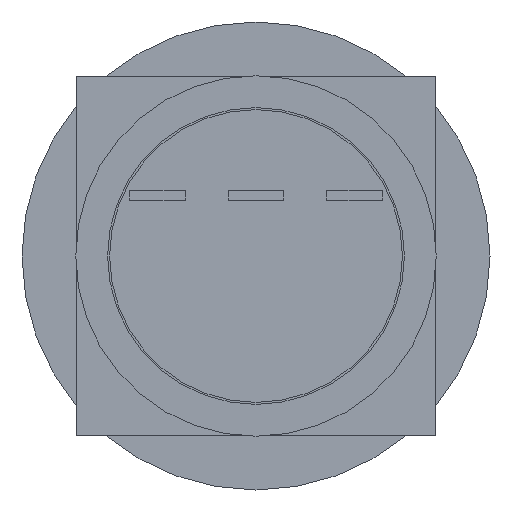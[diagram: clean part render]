
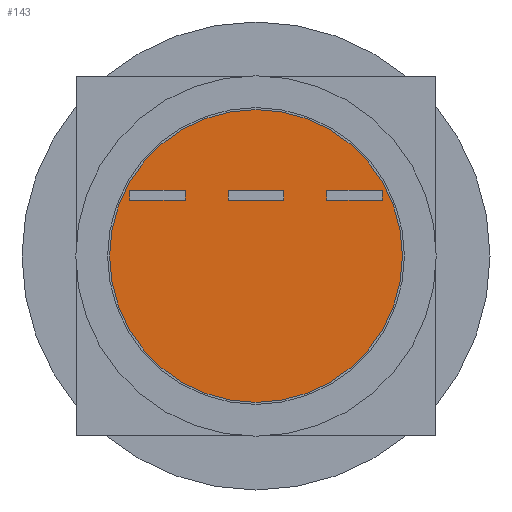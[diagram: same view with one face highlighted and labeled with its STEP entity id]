
A CAD part, front view. The second image highlights one B-rep face of the part: STEP entity #143.
In plain terms, the highlighted planar face has unit normal (0, -1, 0).
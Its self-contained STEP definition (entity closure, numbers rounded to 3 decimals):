
#1 = LINE ( 'NONE', #175, #138 ) ;
#5 = LINE ( 'NONE', #923, #484 ) ;
#7 = EDGE_CURVE ( 'NONE', #272, #536, #806, .T. ) ;
#11 = CARTESIAN_POINT ( 'NONE',  ( 3.55, -30., 3.3 ) ) ;
#18 = LINE ( 'NONE', #587, #823 ) ;
#23 = CARTESIAN_POINT ( 'NONE',  ( 0., -30., 0. ) ) ;
#27 = CARTESIAN_POINT ( 'NONE',  ( 6.35, -30., 3.3 ) ) ;
#34 = CARTESIAN_POINT ( 'NONE',  ( 1.4, -30., 3.3 ) ) ;
#36 = EDGE_LOOP ( 'NONE', ( #700, #1058, #450, #224 ) ) ;
#41 = EDGE_CURVE ( 'NONE', #584, #860, #902, .T. ) ;
#49 = AXIS2_PLACEMENT_3D ( 'NONE', #1030, #352, #1025 ) ;
#51 = DIRECTION ( 'NONE',  ( -1., 0., 0. ) ) ;
#60 = CARTESIAN_POINT ( 'NONE',  ( -6.35, -30., 3.3 ) ) ;
#67 = VERTEX_POINT ( 'NONE', #948 ) ;
#70 = FACE_BOUND ( 'NONE', #36, .T. ) ;
#73 = EDGE_CURVE ( 'NONE', #212, #1110, #784, .T. ) ;
#79 = EDGE_CURVE ( 'NONE', #170, #540, #18, .T. ) ;
#104 = EDGE_CURVE ( 'NONE', #860, #540, #5, .T. ) ;
#105 = FACE_BOUND ( 'NONE', #673, .T. ) ;
#107 = CARTESIAN_POINT ( 'NONE',  ( -1.4, -30., 2.8 ) ) ;
#130 = EDGE_LOOP ( 'NONE', ( #418, #641, #909, #659 ) ) ;
#138 = VECTOR ( 'NONE', #437, 1000. ) ;
#143 = ADVANCED_FACE ( 'NONE', ( #522, #70, #105, #662 ), #413, .T. ) ;
#144 = CARTESIAN_POINT ( 'NONE',  ( 3.55, -30., 3.3 ) ) ;
#150 = CARTESIAN_POINT ( 'NONE',  ( -7.35, -30., 0. ) ) ;
#160 = EDGE_CURVE ( 'NONE', #616, #67, #581, .T. ) ;
#167 = VERTEX_POINT ( 'NONE', #263 ) ;
#170 = VERTEX_POINT ( 'NONE', #541 ) ;
#175 = CARTESIAN_POINT ( 'NONE',  ( 6.35, -30., 3.3 ) ) ;
#179 = EDGE_CURVE ( 'NONE', #167, #1054, #228, .T. ) ;
#183 = DIRECTION ( 'NONE',  ( -1., 0., 0. ) ) ;
#212 = VERTEX_POINT ( 'NONE', #965 ) ;
#216 = CARTESIAN_POINT ( 'NONE',  ( -3.55, -30., 2.8 ) ) ;
#217 = ORIENTED_EDGE ( 'NONE', *, *, #73, .F. ) ;
#224 = ORIENTED_EDGE ( 'NONE', *, *, #775, .F. ) ;
#228 = CIRCLE ( 'NONE', #746, 7.35 ) ;
#246 = CARTESIAN_POINT ( 'NONE',  ( -1.4, -30., 3.3 ) ) ;
#254 = ORIENTED_EDGE ( 'NONE', *, *, #794, .F. ) ;
#259 = DIRECTION ( 'NONE',  ( 0., 0., -1. ) ) ;
#263 = CARTESIAN_POINT ( 'NONE',  ( 0., -30., -7.35 ) ) ;
#272 = VERTEX_POINT ( 'NONE', #216 ) ;
#278 = VECTOR ( 'NONE', #687, 1000. ) ;
#279 = VECTOR ( 'NONE', #1062, 1000. ) ;
#287 = EDGE_CURVE ( 'NONE', #1110, #536, #490, .T. ) ;
#312 = VECTOR ( 'NONE', #380, 1000. ) ;
#317 = VECTOR ( 'NONE', #684, 1000. ) ;
#332 = VECTOR ( 'NONE', #914, 1000. ) ;
#339 = CARTESIAN_POINT ( 'NONE',  ( -3.55, -30., 3.3 ) ) ;
#343 = DIRECTION ( 'NONE',  ( 0., 0., -1. ) ) ;
#348 = DIRECTION ( 'NONE',  ( -1., 0., 0. ) ) ;
#352 = DIRECTION ( 'NONE',  ( 0., 1., 0. ) ) ;
#359 = EDGE_LOOP ( 'NONE', ( #254, #951 ) ) ;
#380 = DIRECTION ( 'NONE',  ( -1., 0., 0. ) ) ;
#413 = PLANE ( 'NONE',  #764 ) ;
#418 = ORIENTED_EDGE ( 'NONE', *, *, #41, .F. ) ;
#429 = VECTOR ( 'NONE', #51, 1000. ) ;
#437 = DIRECTION ( 'NONE',  ( 0., 0., -1. ) ) ;
#450 = ORIENTED_EDGE ( 'NONE', *, *, #518, .T. ) ;
#469 = CARTESIAN_POINT ( 'NONE',  ( -1.4, -30., 3.3 ) ) ;
#478 = DIRECTION ( 'NONE',  ( 0., 1., 0. ) ) ;
#484 = VECTOR ( 'NONE', #343, 1000. ) ;
#490 = LINE ( 'NONE', #60, #332 ) ;
#510 = LINE ( 'NONE', #339, #976 ) ;
#517 = CARTESIAN_POINT ( 'NONE',  ( -6.35, -30., 3.3 ) ) ;
#518 = EDGE_CURVE ( 'NONE', #67, #646, #699, .T. ) ;
#522 = FACE_BOUND ( 'NONE', #130, .T. ) ;
#536 = VERTEX_POINT ( 'NONE', #894 ) ;
#540 = VERTEX_POINT ( 'NONE', #884 ) ;
#541 = CARTESIAN_POINT ( 'NONE',  ( 6.35, -30., 2.8 ) ) ;
#580 = EDGE_CURVE ( 'NONE', #616, #781, #873, .T. ) ;
#581 = LINE ( 'NONE', #773, #278 ) ;
#584 = VERTEX_POINT ( 'NONE', #27 ) ;
#587 = CARTESIAN_POINT ( 'NONE',  ( 3.55, -30., 2.8 ) ) ;
#600 = CARTESIAN_POINT ( 'NONE',  ( -1.4, -30., 3.3 ) ) ;
#616 = VERTEX_POINT ( 'NONE', #34 ) ;
#641 = ORIENTED_EDGE ( 'NONE', *, *, #818, .T. ) ;
#646 = VERTEX_POINT ( 'NONE', #1090 ) ;
#659 = ORIENTED_EDGE ( 'NONE', *, *, #104, .F. ) ;
#662 = FACE_OUTER_BOUND ( 'NONE', #359, .T. ) ;
#673 = EDGE_LOOP ( 'NONE', ( #217, #901, #743, #984 ) ) ;
#684 = DIRECTION ( 'NONE',  ( 0., 0., -1. ) ) ;
#687 = DIRECTION ( 'NONE',  ( 0., 0., -1. ) ) ;
#699 = LINE ( 'NONE', #107, #312 ) ;
#700 = ORIENTED_EDGE ( 'NONE', *, *, #580, .F. ) ;
#730 = VECTOR ( 'NONE', #348, 1000. ) ;
#731 = CARTESIAN_POINT ( 'NONE',  ( 0., -30., 7.35 ) ) ;
#743 = ORIENTED_EDGE ( 'NONE', *, *, #7, .T. ) ;
#746 = AXIS2_PLACEMENT_3D ( 'NONE', #23, #478, #886 ) ;
#756 = DIRECTION ( 'NONE',  ( 0., 0., -1. ) ) ;
#764 = AXIS2_PLACEMENT_3D ( 'NONE', #150, #1003, #756 ) ;
#773 = CARTESIAN_POINT ( 'NONE',  ( 1.4, -30., 3.3 ) ) ;
#774 = LINE ( 'NONE', #600, #317 ) ;
#775 = EDGE_CURVE ( 'NONE', #781, #646, #774, .T. ) ;
#781 = VERTEX_POINT ( 'NONE', #246 ) ;
#784 = LINE ( 'NONE', #517, #730 ) ;
#789 = EDGE_CURVE ( 'NONE', #212, #272, #510, .T. ) ;
#794 = EDGE_CURVE ( 'NONE', #1054, #167, #1107, .T. ) ;
#806 = LINE ( 'NONE', #1075, #429 ) ;
#818 = EDGE_CURVE ( 'NONE', #584, #170, #1, .T. ) ;
#823 = VECTOR ( 'NONE', #183, 1000. ) ;
#833 = DIRECTION ( 'NONE',  ( -1., 0., 0. ) ) ;
#834 = CARTESIAN_POINT ( 'NONE',  ( -6.35, -30., 3.3 ) ) ;
#860 = VERTEX_POINT ( 'NONE', #11 ) ;
#873 = LINE ( 'NONE', #469, #279 ) ;
#884 = CARTESIAN_POINT ( 'NONE',  ( 3.55, -30., 2.8 ) ) ;
#886 = DIRECTION ( 'NONE',  ( 0., 0., 1. ) ) ;
#894 = CARTESIAN_POINT ( 'NONE',  ( -6.35, -30., 2.8 ) ) ;
#901 = ORIENTED_EDGE ( 'NONE', *, *, #789, .T. ) ;
#902 = LINE ( 'NONE', #144, #961 ) ;
#909 = ORIENTED_EDGE ( 'NONE', *, *, #79, .T. ) ;
#914 = DIRECTION ( 'NONE',  ( 0., 0., -1. ) ) ;
#923 = CARTESIAN_POINT ( 'NONE',  ( 3.55, -30., 3.3 ) ) ;
#948 = CARTESIAN_POINT ( 'NONE',  ( 1.4, -30., 2.8 ) ) ;
#951 = ORIENTED_EDGE ( 'NONE', *, *, #179, .F. ) ;
#961 = VECTOR ( 'NONE', #833, 1000. ) ;
#965 = CARTESIAN_POINT ( 'NONE',  ( -3.55, -30., 3.3 ) ) ;
#976 = VECTOR ( 'NONE', #259, 1000. ) ;
#984 = ORIENTED_EDGE ( 'NONE', *, *, #287, .F. ) ;
#1003 = DIRECTION ( 'NONE',  ( 0., -1., 0. ) ) ;
#1025 = DIRECTION ( 'NONE',  ( 0., 0., 1. ) ) ;
#1030 = CARTESIAN_POINT ( 'NONE',  ( 0., -30., 0. ) ) ;
#1054 = VERTEX_POINT ( 'NONE', #731 ) ;
#1058 = ORIENTED_EDGE ( 'NONE', *, *, #160, .T. ) ;
#1062 = DIRECTION ( 'NONE',  ( -1., 0., 0. ) ) ;
#1075 = CARTESIAN_POINT ( 'NONE',  ( -6.35, -30., 2.8 ) ) ;
#1090 = CARTESIAN_POINT ( 'NONE',  ( -1.4, -30., 2.8 ) ) ;
#1107 = CIRCLE ( 'NONE', #49, 7.35 ) ;
#1110 = VERTEX_POINT ( 'NONE', #834 ) ;
